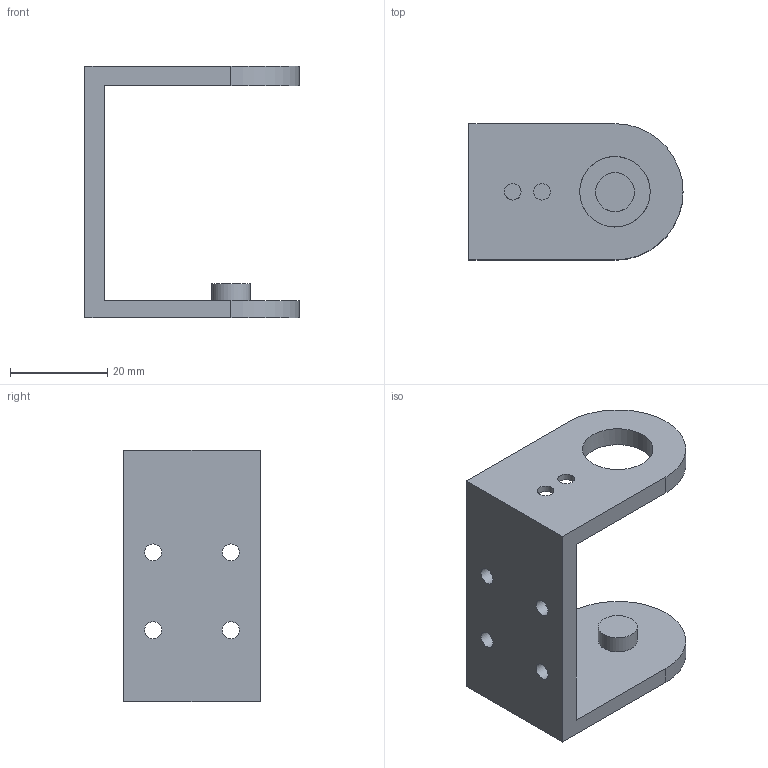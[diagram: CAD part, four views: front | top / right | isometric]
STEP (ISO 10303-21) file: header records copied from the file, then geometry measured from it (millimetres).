
FILE_DESCRIPTION(('FreeCAD Model'),'2;1');
FILE_NAME('Open CASCADE Shape Model','2026-11-08T23:31:28',('FreeCAD'),( 'FreeCAD'),'Open CASCADE STEP processor 7.8','FreeCAD','Unknown');
FILE_SCHEMA(('AUTOMOTIVE_DESIGN { 1 0 10303 214 1 1 1 1 }'));
Length unit declared in the file: millimetre
Products named in the file (1): Open CASCADE STEP translator 7.8 2
Bounding box: 44 x 28 x 51.7 mm (x, y, z)
Volume: 12436.4 mm3; surface area: 8318.8 mm2
Topology: 1 solids, 1 shells, 24 faces, 72 edges, 50 vertices
Faces by surface type: cylinder 12, plane 12
Full cylindrical faces by diameter (mm): 3.4 x2, 3.5 x4, 8 x1, 14.5 x1
Entity records: 874 total; most frequent: DIRECTION 154, CARTESIAN_POINT 147, ORIENTED_EDGE 144, EDGE_CURVE 72, AXIS2_PLACEMENT_3D 57, VERTEX_POINT 50, LINE 40, VECTOR 40
